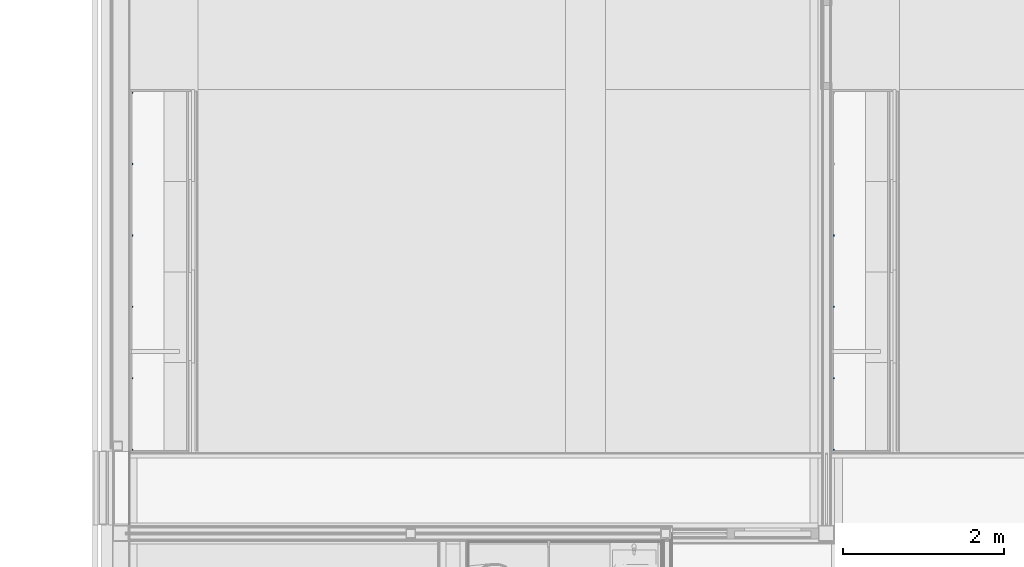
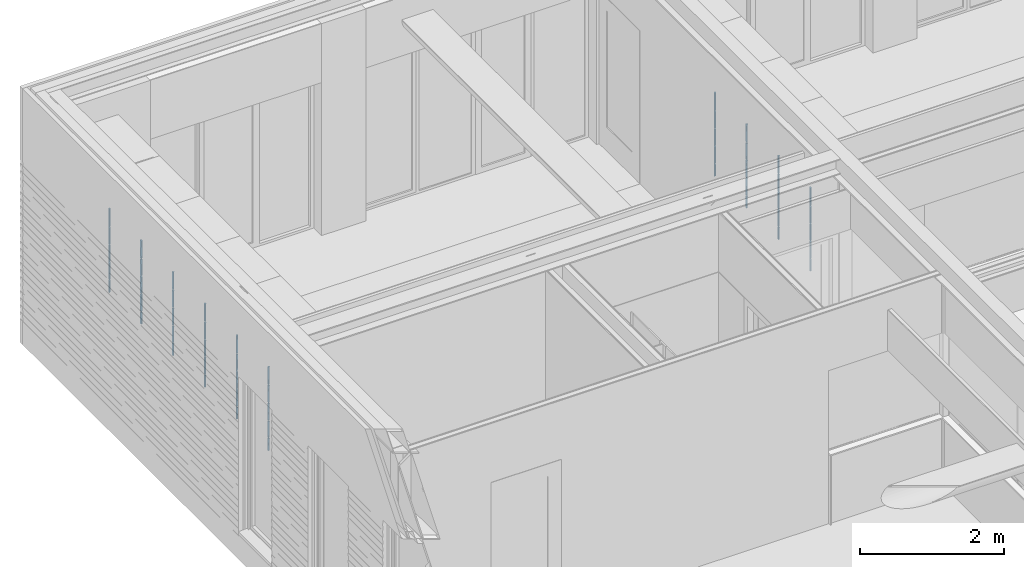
# One storey, part 4 of 165: 10 columns.
"""IFC2X3 building model written with IfcOpenShell, lengths in millimetres."""

from ifc_helpers import new_model, entity, si_unit, converted_unit, derived_unit, money_unit, direction, frame, origin_with_axes, place, context, subcontext, project, spatial, faceted_brep, material, type_object, element, save


model = new_model("IFC2X3")

# Units and contexts
model_context = context("Model", 3, precision=0.01, world=origin_with_axes(), true_north=direction((0.0, 1.0)))
body_context = subcontext(model_context, "Body", "Model", "MODEL_VIEW")
ifc_project = project(units=[si_unit("LENGTHUNIT", "METRE", prefix="MILLI"), si_unit("AREAUNIT", "SQUARE_METRE"), si_unit("VOLUMEUNIT", "CUBIC_METRE"), converted_unit("PLANEANGLEUNIT", "DEGREE", entity("IfcPlaneAngleMeasure", 0.0174532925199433), si_unit("PLANEANGLEUNIT", "RADIAN"), dimensions=[0, 0, 0, 0, 0, 0, 0]), money_unit("EUR"), converted_unit("TIMEUNIT", "Year", entity("IfcTimeMeasure", 31556926.0), si_unit("TIMEUNIT", "SECOND"), dimensions=[0, 0, 1, 0, 0, 0, 0]), si_unit("MASSUNIT", "GRAM", prefix="KILO"), si_unit("THERMODYNAMICTEMPERATUREUNIT", "DEGREE_CELSIUS"), si_unit("LUMINOUSINTENSITYUNIT", "LUMEN"), si_unit("ENERGYUNIT", "JOULE", prefix="MEGA"), derived_unit("THERMALCONDUCTANCEUNIT", [(si_unit("POWERUNIT", "WATT"), 1), (si_unit("LENGTHUNIT", "METRE"), -1), (si_unit("THERMODYNAMICTEMPERATUREUNIT", "KELVIN"), -1)]), derived_unit("SPECIFICHEATCAPACITYUNIT", [(si_unit("ENERGYUNIT", "JOULE"), 1), (si_unit("MASSUNIT", "GRAM", prefix="KILO"), -1), (si_unit("THERMODYNAMICTEMPERATUREUNIT", "KELVIN"), -1)]), derived_unit("MASSDENSITYUNIT", [(si_unit("MASSUNIT", "GRAM", prefix="KILO"), 1), (si_unit("VOLUMEUNIT", "CUBIC_METRE"), -1)])], contexts=[model_context])

# Site, building, storey
site_placement = place(None, origin_with_axes())
site = spatial("IfcSite", under=ifc_project, at=site_placement, Name="Site", CompositionType="ELEMENT")
building_placement = place(site_placement, origin_with_axes())
building = spatial("IfcBuilding", under=site, at=building_placement, Name="Naam gebouw", CompositionType="ELEMENT")
storey_placement = place(building_placement, origin_with_axes())
storey = spatial("IfcBuildingStorey", under=building, at=storey_placement, Name="Begane grond", CompositionType="ELEMENT", Elevation=0.0)

# Columns
ifc_material = material(Name="ALG - ALGEMEEN")
column_type = type_object("IfcColumnType", Name="ALG - ALGEMEEN 20 x 20", PredefinedType="COLUMN")
column_1_placement = place(storey_placement, frame((8942.500000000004, 23362.99984707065, 1182.0), z_axis=(0.0, 0.0, 1.0), x_axis=(1.0, 0.0, 0.0)))
element("IfcColumn", 1, at=column_1_placement, inside=storey, type_object=column_type, material=ifc_material, Name="28_Kolom-x", ObjectType="COLUMN", context=body_context, shape_type="Brep", body=[
    faceted_brep([(-8.000000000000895, 9.99999999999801, 0.0), (-8.000000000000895, 9.99999999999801, 197.9999999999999), (9.999999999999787, 9.99999999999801, 197.9999999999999), (9.999999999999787, 9.99999999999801, 0.0), (-8.000000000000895, -10.00000000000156, 0.0), (-8.000000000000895, -10.00000000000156, 197.9999999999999), (9.999999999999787, -10.00000000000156, 197.9999999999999), (9.999999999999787, -10.00000000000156, 0.0)], [[[0, 1, 2, 3]], [[4, 5, 1, 0]], [[5, 6, 2, 1]], [[3, 2, 6, 7]], [[3, 7, 4, 0]], [[7, 6, 5, 4]]]),
    faceted_brep([(9.999999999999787, -10.00000000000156, 1418.0), (9.999999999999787, -10.00000000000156, 1118.0), (9.999999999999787, 9.99999999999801, 1118.0), (9.999999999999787, 9.99999999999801, 1418.0), (-8.000000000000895, -10.00000000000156, 1418.0), (-8.000000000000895, -10.00000000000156, 1118.0), (-8.000000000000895, 9.99999999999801, 1118.0), (-8.000000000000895, 9.99999999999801, 1418.0)], [[[0, 1, 2, 3]], [[4, 5, 1, 0]], [[5, 6, 2, 1]], [[3, 2, 6, 7]], [[0, 3, 7, 4]], [[7, 6, 5, 4]]]),
    faceted_brep([(9.999999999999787, -10.00000000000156, 1098.0), (9.999999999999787, -10.00000000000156, 818.0000000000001), (9.999999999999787, 9.99999999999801, 818.0000000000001), (9.999999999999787, 9.99999999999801, 1098.0), (-8.000000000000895, -10.00000000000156, 1098.0), (-8.000000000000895, -10.00000000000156, 818.0000000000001), (-8.000000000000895, 9.99999999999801, 818.0000000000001), (-8.000000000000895, 9.99999999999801, 1098.0)], [[[0, 1, 2, 3]], [[4, 5, 1, 0]], [[5, 6, 2, 1]], [[3, 2, 6, 7]], [[4, 0, 3, 7]], [[7, 6, 5, 4]]]),
    faceted_brep([(9.999999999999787, -10.00000000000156, 798.0), (9.999999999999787, -10.00000000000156, 518.0), (9.999999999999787, 9.99999999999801, 518.0), (9.999999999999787, 9.99999999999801, 798.0), (-8.000000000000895, -10.00000000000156, 798.0), (-8.000000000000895, -10.00000000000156, 518.0), (-8.000000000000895, 9.99999999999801, 518.0), (-8.000000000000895, 9.99999999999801, 798.0)], [[[0, 1, 2, 3]], [[4, 5, 1, 0]], [[5, 6, 2, 1]], [[3, 2, 6, 7]], [[4, 0, 3, 7]], [[7, 6, 5, 4]]]),
    faceted_brep([(9.999999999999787, -10.00000000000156, 498.0), (9.999999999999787, -10.00000000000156, 218.0), (9.999999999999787, 9.99999999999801, 218.0), (9.999999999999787, 9.99999999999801, 498.0), (-8.000000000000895, -10.00000000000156, 498.0), (-8.000000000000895, -10.00000000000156, 218.0), (-8.000000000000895, 9.99999999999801, 218.0), (-8.000000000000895, 9.99999999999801, 498.0)], [[[0, 1, 2, 3]], [[4, 5, 1, 0]], [[5, 6, 2, 1]], [[3, 2, 6, 7]], [[4, 0, 3, 7]], [[7, 6, 5, 4]]]),
])
column_2_placement = place(storey_placement, frame((8942.500000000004, 26020.99984707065, 1182.0), z_axis=(0.0, 0.0, 1.0), x_axis=(1.0, 0.0, 0.0)))
element("IfcColumn", 2, at=column_2_placement, inside=storey, type_object=column_type, material=ifc_material, Name="28_Kolom-x", ObjectType="COLUMN", context=body_context, shape_type="Brep", body=[
    faceted_brep([(-8.000000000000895, 9.99999999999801, 0.0), (-8.000000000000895, 9.99999999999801, 197.9999999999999), (9.999999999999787, 9.99999999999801, 197.9999999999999), (9.999999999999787, 9.99999999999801, 0.0), (-8.000000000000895, -10.00000000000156, 0.0), (-8.000000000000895, -10.00000000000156, 197.9999999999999), (9.999999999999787, -10.00000000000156, 197.9999999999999), (9.999999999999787, -10.00000000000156, 0.0)], [[[0, 1, 2, 3]], [[4, 5, 1, 0]], [[5, 6, 2, 1]], [[3, 2, 6, 7]], [[3, 7, 4, 0]], [[7, 6, 5, 4]]]),
    faceted_brep([(9.999999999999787, -10.00000000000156, 1418.0), (9.999999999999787, -10.00000000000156, 1118.0), (9.999999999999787, 9.99999999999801, 1118.0), (9.999999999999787, 9.99999999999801, 1418.0), (-8.000000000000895, -10.00000000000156, 1418.0), (-8.000000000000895, -10.00000000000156, 1118.0), (-8.000000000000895, 9.99999999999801, 1118.0), (-8.000000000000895, 9.99999999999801, 1418.0)], [[[0, 1, 2, 3]], [[4, 5, 1, 0]], [[5, 6, 2, 1]], [[3, 2, 6, 7]], [[0, 3, 7, 4]], [[7, 6, 5, 4]]]),
    faceted_brep([(9.999999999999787, -10.00000000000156, 1098.0), (9.999999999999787, -10.00000000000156, 818.0000000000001), (9.999999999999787, 9.99999999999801, 818.0000000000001), (9.999999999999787, 9.99999999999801, 1098.0), (-8.000000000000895, -10.00000000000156, 1098.0), (-8.000000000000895, -10.00000000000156, 818.0000000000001), (-8.000000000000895, 9.99999999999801, 818.0000000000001), (-8.000000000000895, 9.99999999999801, 1098.0)], [[[0, 1, 2, 3]], [[4, 5, 1, 0]], [[5, 6, 2, 1]], [[3, 2, 6, 7]], [[4, 0, 3, 7]], [[7, 6, 5, 4]]]),
    faceted_brep([(9.999999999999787, -10.00000000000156, 798.0), (9.999999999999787, -10.00000000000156, 518.0), (9.999999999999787, 9.99999999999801, 518.0), (9.999999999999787, 9.99999999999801, 798.0), (-8.000000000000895, -10.00000000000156, 798.0), (-8.000000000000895, -10.00000000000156, 518.0), (-8.000000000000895, 9.99999999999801, 518.0), (-8.000000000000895, 9.99999999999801, 798.0)], [[[0, 1, 2, 3]], [[4, 5, 1, 0]], [[5, 6, 2, 1]], [[3, 2, 6, 7]], [[4, 0, 3, 7]], [[7, 6, 5, 4]]]),
    faceted_brep([(9.999999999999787, -10.00000000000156, 498.0), (9.999999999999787, -10.00000000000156, 218.0), (9.999999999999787, 9.99999999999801, 218.0), (9.999999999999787, 9.99999999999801, 498.0), (-8.000000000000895, -10.00000000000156, 498.0), (-8.000000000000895, -10.00000000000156, 218.0), (-8.000000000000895, 9.99999999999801, 218.0), (-8.000000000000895, 9.99999999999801, 498.0)], [[[0, 1, 2, 3]], [[4, 5, 1, 0]], [[5, 6, 2, 1]], [[3, 2, 6, 7]], [[4, 0, 3, 7]], [[7, 6, 5, 4]]]),
])
column_3_placement = place(storey_placement, frame((8942.500000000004, 25134.99984707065, 1182.0), z_axis=(0.0, 0.0, 1.0), x_axis=(1.0, 0.0, 0.0)))
element("IfcColumn", 3, at=column_3_placement, inside=storey, type_object=column_type, material=ifc_material, Name="28_Kolom-x", ObjectType="COLUMN", context=body_context, shape_type="Brep", body=[
    faceted_brep([(-8.000000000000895, 9.99999999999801, 0.0), (-8.000000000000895, 9.99999999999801, 197.9999999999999), (9.999999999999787, 9.99999999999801, 197.9999999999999), (9.999999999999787, 9.99999999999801, 0.0), (-8.000000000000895, -10.00000000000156, 0.0), (-8.000000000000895, -10.00000000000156, 197.9999999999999), (9.999999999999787, -10.00000000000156, 197.9999999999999), (9.999999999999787, -10.00000000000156, 0.0)], [[[0, 1, 2, 3]], [[4, 5, 1, 0]], [[5, 6, 2, 1]], [[3, 2, 6, 7]], [[3, 7, 4, 0]], [[7, 6, 5, 4]]]),
    faceted_brep([(9.999999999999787, -10.00000000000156, 1418.0), (9.999999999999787, -10.00000000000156, 1118.0), (9.999999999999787, 9.99999999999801, 1118.0), (9.999999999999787, 9.99999999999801, 1418.0), (-8.000000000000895, -10.00000000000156, 1418.0), (-8.000000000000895, -10.00000000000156, 1118.0), (-8.000000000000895, 9.99999999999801, 1118.0), (-8.000000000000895, 9.99999999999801, 1418.0)], [[[0, 1, 2, 3]], [[4, 5, 1, 0]], [[5, 6, 2, 1]], [[3, 2, 6, 7]], [[0, 3, 7, 4]], [[7, 6, 5, 4]]]),
    faceted_brep([(9.999999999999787, -10.00000000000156, 1098.0), (9.999999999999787, -10.00000000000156, 818.0000000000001), (9.999999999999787, 9.99999999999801, 818.0000000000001), (9.999999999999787, 9.99999999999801, 1098.0), (-8.000000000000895, -10.00000000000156, 1098.0), (-8.000000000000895, -10.00000000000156, 818.0000000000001), (-8.000000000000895, 9.99999999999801, 818.0000000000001), (-8.000000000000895, 9.99999999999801, 1098.0)], [[[0, 1, 2, 3]], [[4, 5, 1, 0]], [[5, 6, 2, 1]], [[3, 2, 6, 7]], [[4, 0, 3, 7]], [[7, 6, 5, 4]]]),
    faceted_brep([(9.999999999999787, -10.00000000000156, 798.0), (9.999999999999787, -10.00000000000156, 518.0), (9.999999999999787, 9.99999999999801, 518.0), (9.999999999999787, 9.99999999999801, 798.0), (-8.000000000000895, -10.00000000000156, 798.0), (-8.000000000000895, -10.00000000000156, 518.0), (-8.000000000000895, 9.99999999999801, 518.0), (-8.000000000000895, 9.99999999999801, 798.0)], [[[0, 1, 2, 3]], [[4, 5, 1, 0]], [[5, 6, 2, 1]], [[3, 2, 6, 7]], [[4, 0, 3, 7]], [[7, 6, 5, 4]]]),
    faceted_brep([(9.999999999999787, -10.00000000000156, 498.0), (9.999999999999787, -10.00000000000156, 218.0), (9.999999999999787, 9.99999999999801, 218.0), (9.999999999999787, 9.99999999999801, 498.0), (-8.000000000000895, -10.00000000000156, 498.0), (-8.000000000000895, -10.00000000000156, 218.0), (-8.000000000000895, 9.99999999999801, 218.0), (-8.000000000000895, 9.99999999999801, 498.0)], [[[0, 1, 2, 3]], [[4, 5, 1, 0]], [[5, 6, 2, 1]], [[3, 2, 6, 7]], [[4, 0, 3, 7]], [[7, 6, 5, 4]]]),
])
column_4_placement = place(storey_placement, frame((8942.500000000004, 24248.99984707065, 1182.0), z_axis=(0.0, 0.0, 1.0), x_axis=(1.0, 0.0, 0.0)))
element("IfcColumn", 4, at=column_4_placement, inside=storey, type_object=column_type, material=ifc_material, Name="28_Kolom-x", ObjectType="COLUMN", context=body_context, shape_type="Brep", body=[
    faceted_brep([(-8.000000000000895, 9.99999999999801, 0.0), (-8.000000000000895, 9.99999999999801, 197.9999999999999), (9.999999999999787, 9.99999999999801, 197.9999999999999), (9.999999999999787, 9.99999999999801, 0.0), (-8.000000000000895, -10.00000000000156, 0.0), (-8.000000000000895, -10.00000000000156, 197.9999999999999), (9.999999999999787, -10.00000000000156, 197.9999999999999), (9.999999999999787, -10.00000000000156, 0.0)], [[[0, 1, 2, 3]], [[4, 5, 1, 0]], [[5, 6, 2, 1]], [[3, 2, 6, 7]], [[3, 7, 4, 0]], [[7, 6, 5, 4]]]),
    faceted_brep([(9.999999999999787, -10.00000000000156, 1418.0), (9.999999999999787, -10.00000000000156, 1118.0), (9.999999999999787, 9.99999999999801, 1118.0), (9.999999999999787, 9.99999999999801, 1418.0), (-8.000000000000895, -10.00000000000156, 1418.0), (-8.000000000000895, -10.00000000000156, 1118.0), (-8.000000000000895, 9.99999999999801, 1118.0), (-8.000000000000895, 9.99999999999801, 1418.0)], [[[0, 1, 2, 3]], [[4, 5, 1, 0]], [[5, 6, 2, 1]], [[3, 2, 6, 7]], [[0, 3, 7, 4]], [[7, 6, 5, 4]]]),
    faceted_brep([(9.999999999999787, -10.00000000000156, 1098.0), (9.999999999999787, -10.00000000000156, 818.0000000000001), (9.999999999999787, 9.99999999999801, 818.0000000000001), (9.999999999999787, 9.99999999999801, 1098.0), (-8.000000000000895, -10.00000000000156, 1098.0), (-8.000000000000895, -10.00000000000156, 818.0000000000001), (-8.000000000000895, 9.99999999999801, 818.0000000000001), (-8.000000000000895, 9.99999999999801, 1098.0)], [[[0, 1, 2, 3]], [[4, 5, 1, 0]], [[5, 6, 2, 1]], [[3, 2, 6, 7]], [[4, 0, 3, 7]], [[7, 6, 5, 4]]]),
    faceted_brep([(9.999999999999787, -10.00000000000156, 798.0), (9.999999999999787, -10.00000000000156, 518.0), (9.999999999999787, 9.99999999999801, 518.0), (9.999999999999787, 9.99999999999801, 798.0), (-8.000000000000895, -10.00000000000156, 798.0), (-8.000000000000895, -10.00000000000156, 518.0), (-8.000000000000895, 9.99999999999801, 518.0), (-8.000000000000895, 9.99999999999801, 798.0)], [[[0, 1, 2, 3]], [[4, 5, 1, 0]], [[5, 6, 2, 1]], [[3, 2, 6, 7]], [[4, 0, 3, 7]], [[7, 6, 5, 4]]]),
    faceted_brep([(9.999999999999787, -10.00000000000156, 498.0), (9.999999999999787, -10.00000000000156, 218.0), (9.999999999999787, 9.99999999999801, 218.0), (9.999999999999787, 9.99999999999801, 498.0), (-8.000000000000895, -10.00000000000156, 498.0), (-8.000000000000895, -10.00000000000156, 218.0), (-8.000000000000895, 9.99999999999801, 218.0), (-8.000000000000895, 9.99999999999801, 498.0)], [[[0, 1, 2, 3]], [[4, 5, 1, 0]], [[5, 6, 2, 1]], [[3, 2, 6, 7]], [[4, 0, 3, 7]], [[7, 6, 5, 4]]]),
])
column_5_placement = place(storey_placement, frame((244.0000000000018, 23362.99984707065, 1182.0), z_axis=(0.0, 0.0, 1.0), x_axis=(1.0, 0.0, 0.0)))
element("IfcColumn", 5, at=column_5_placement, inside=storey, type_object=column_type, material=ifc_material, Name="28_Kolom-x", ObjectType="COLUMN", context=body_context, shape_type="Brep", body=[
    faceted_brep([(-8.000000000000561, 9.99999999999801, 0.0), (-8.000000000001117, 9.99999999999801, 197.9999999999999), (10.00000000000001, 9.99999999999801, 197.9999999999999), (10.00000000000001, 9.99999999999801, 0.0), (-8.000000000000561, -10.00000000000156, 0.0), (-8.000000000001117, -10.00000000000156, 197.9999999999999), (10.00000000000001, -10.00000000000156, 197.9999999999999), (10.00000000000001, -10.00000000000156, 0.0)], [[[0, 1, 2, 3]], [[4, 5, 1, 0]], [[5, 6, 2, 1]], [[3, 2, 6, 7]], [[3, 7, 4, 0]], [[7, 6, 5, 4]]]),
    faceted_brep([(10.00000000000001, -10.00000000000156, 1418.0), (10.00000000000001, -10.00000000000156, 1118.0), (10.00000000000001, 9.99999999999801, 1118.0), (10.00000000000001, 9.99999999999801, 1418.0), (-8.000000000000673, -10.00000000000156, 1418.0), (-8.000000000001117, -10.00000000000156, 1118.0), (-8.000000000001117, 9.99999999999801, 1118.0), (-8.000000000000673, 9.99999999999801, 1418.0)], [[[0, 1, 2, 3]], [[4, 5, 1, 0]], [[5, 6, 2, 1]], [[3, 2, 6, 7]], [[0, 3, 7, 4]], [[7, 6, 5, 4]]]),
    faceted_brep([(10.00000000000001, -10.00000000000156, 1098.0), (10.00000000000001, -10.00000000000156, 818.0000000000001), (10.00000000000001, 9.99999999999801, 818.0000000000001), (10.00000000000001, 9.99999999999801, 1098.0), (-8.000000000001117, -10.00000000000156, 1098.0), (-8.000000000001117, -10.00000000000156, 818.0000000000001), (-8.000000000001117, 9.99999999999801, 818.0000000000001), (-8.000000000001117, 9.99999999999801, 1098.0)], [[[0, 1, 2, 3]], [[4, 5, 1, 0]], [[5, 6, 2, 1]], [[3, 2, 6, 7]], [[4, 0, 3, 7]], [[7, 6, 5, 4]]]),
    faceted_brep([(10.00000000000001, -10.00000000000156, 798.0), (10.00000000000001, -10.00000000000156, 518.0), (10.00000000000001, 9.99999999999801, 518.0), (10.00000000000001, 9.99999999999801, 798.0), (-8.000000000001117, -10.00000000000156, 798.0), (-8.000000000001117, -10.00000000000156, 518.0), (-8.000000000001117, 9.99999999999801, 518.0), (-8.000000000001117, 9.99999999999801, 798.0)], [[[0, 1, 2, 3]], [[4, 5, 1, 0]], [[5, 6, 2, 1]], [[3, 2, 6, 7]], [[4, 0, 3, 7]], [[7, 6, 5, 4]]]),
    faceted_brep([(10.00000000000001, -10.00000000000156, 498.0), (10.00000000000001, -10.00000000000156, 218.0), (10.00000000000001, 9.99999999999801, 218.0), (10.00000000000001, 9.99999999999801, 498.0), (-8.000000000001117, -10.00000000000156, 498.0), (-8.000000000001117, -10.00000000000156, 218.0), (-8.000000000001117, 9.99999999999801, 218.0), (-8.000000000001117, 9.99999999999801, 498.0)], [[[0, 1, 2, 3]], [[4, 5, 1, 0]], [[5, 6, 2, 1]], [[3, 2, 6, 7]], [[4, 0, 3, 7]], [[7, 6, 5, 4]]]),
])
column_6_placement = place(storey_placement, frame((244.0000000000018, 27792.99984707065, 1182.0), z_axis=(0.0, 0.0, 1.0), x_axis=(1.0, 0.0, 0.0)))
element("IfcColumn", 6, at=column_6_placement, inside=storey, type_object=column_type, material=ifc_material, Name="28_Kolom-x", ObjectType="COLUMN", context=body_context, shape_type="Brep", body=[
    faceted_brep([(-8.000000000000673, 9.99999999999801, 0.0), (-8.000000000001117, 9.99999999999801, 197.9999999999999), (10.00000000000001, 9.99999999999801, 197.9999999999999), (10.00000000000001, 9.99999999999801, 0.0), (-8.000000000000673, -10.00000000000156, 0.0), (-8.000000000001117, -10.00000000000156, 197.9999999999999), (10.00000000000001, -10.00000000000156, 197.9999999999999), (10.00000000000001, -10.00000000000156, 0.0)], [[[0, 1, 2, 3]], [[4, 5, 1, 0]], [[5, 6, 2, 1]], [[3, 2, 6, 7]], [[3, 7, 4, 0]], [[7, 6, 5, 4]]]),
    faceted_brep([(10.00000000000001, -10.00000000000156, 1418.0), (10.00000000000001, -10.00000000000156, 1118.0), (10.00000000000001, 9.99999999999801, 1118.0), (10.00000000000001, 9.99999999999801, 1418.0), (-8.000000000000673, -10.00000000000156, 1418.0), (-8.000000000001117, -10.00000000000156, 1118.0), (-8.000000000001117, 9.99999999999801, 1118.0), (-8.000000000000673, 9.99999999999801, 1418.0)], [[[0, 1, 2, 3]], [[4, 5, 1, 0]], [[5, 6, 2, 1]], [[3, 2, 6, 7]], [[0, 3, 7, 4]], [[7, 6, 5, 4]]]),
    faceted_brep([(10.00000000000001, -10.00000000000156, 1098.0), (10.00000000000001, -10.00000000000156, 818.0000000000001), (10.00000000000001, 9.99999999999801, 818.0000000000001), (10.00000000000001, 9.99999999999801, 1098.0), (-8.000000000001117, -10.00000000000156, 1098.0), (-8.000000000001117, -10.00000000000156, 818.0000000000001), (-8.000000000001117, 9.99999999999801, 818.0000000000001), (-8.000000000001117, 9.99999999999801, 1098.0)], [[[0, 1, 2, 3]], [[4, 5, 1, 0]], [[5, 6, 2, 1]], [[3, 2, 6, 7]], [[4, 0, 3, 7]], [[7, 6, 5, 4]]]),
    faceted_brep([(10.00000000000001, -10.00000000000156, 798.0), (10.00000000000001, -10.00000000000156, 518.0), (10.00000000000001, 9.99999999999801, 518.0), (10.00000000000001, 9.99999999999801, 798.0), (-8.000000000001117, -10.00000000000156, 798.0), (-8.000000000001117, -10.00000000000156, 518.0), (-8.000000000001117, 9.99999999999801, 518.0), (-8.000000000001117, 9.99999999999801, 798.0)], [[[0, 1, 2, 3]], [[4, 5, 1, 0]], [[5, 6, 2, 1]], [[3, 2, 6, 7]], [[4, 0, 3, 7]], [[7, 6, 5, 4]]]),
    faceted_brep([(10.00000000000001, -10.00000000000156, 498.0), (10.00000000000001, -10.00000000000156, 218.0), (10.00000000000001, 9.99999999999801, 218.0), (10.00000000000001, 9.99999999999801, 498.0), (-8.000000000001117, -10.00000000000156, 498.0), (-8.000000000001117, -10.00000000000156, 218.0), (-8.000000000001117, 9.99999999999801, 218.0), (-8.000000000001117, 9.99999999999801, 498.0)], [[[0, 1, 2, 3]], [[4, 5, 1, 0]], [[5, 6, 2, 1]], [[3, 2, 6, 7]], [[4, 0, 3, 7]], [[7, 6, 5, 4]]]),
])
column_7_placement = place(storey_placement, frame((244.0000000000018, 26906.99984707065, 1182.0), z_axis=(0.0, 0.0, 1.0), x_axis=(1.0, 0.0, 0.0)))
element("IfcColumn", 7, at=column_7_placement, inside=storey, type_object=column_type, material=ifc_material, Name="28_Kolom-x", ObjectType="COLUMN", context=body_context, shape_type="Brep", body=[
    faceted_brep([(-8.000000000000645, 9.99999999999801, 0.0), (-8.000000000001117, 9.99999999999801, 197.9999999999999), (10.00000000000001, 9.99999999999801, 197.9999999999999), (10.00000000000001, 9.99999999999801, 0.0), (-8.000000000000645, -10.00000000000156, 0.0), (-8.000000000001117, -10.00000000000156, 197.9999999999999), (10.00000000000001, -10.00000000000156, 197.9999999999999), (10.00000000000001, -10.00000000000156, 0.0)], [[[0, 1, 2, 3]], [[4, 5, 1, 0]], [[5, 6, 2, 1]], [[3, 2, 6, 7]], [[3, 7, 4, 0]], [[7, 6, 5, 4]]]),
    faceted_brep([(10.00000000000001, -10.00000000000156, 1418.0), (10.00000000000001, -10.00000000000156, 1118.0), (10.00000000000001, 9.99999999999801, 1118.0), (10.00000000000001, 9.99999999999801, 1418.0), (-8.000000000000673, -10.00000000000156, 1418.0), (-8.000000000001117, -10.00000000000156, 1118.0), (-8.000000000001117, 9.99999999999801, 1118.0), (-8.000000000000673, 9.99999999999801, 1418.0)], [[[0, 1, 2, 3]], [[4, 5, 1, 0]], [[5, 6, 2, 1]], [[3, 2, 6, 7]], [[0, 3, 7, 4]], [[7, 6, 5, 4]]]),
    faceted_brep([(10.00000000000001, -10.00000000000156, 1098.0), (10.00000000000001, -10.00000000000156, 818.0000000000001), (10.00000000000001, 9.99999999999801, 818.0000000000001), (10.00000000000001, 9.99999999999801, 1098.0), (-8.000000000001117, -10.00000000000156, 1098.0), (-8.000000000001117, -10.00000000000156, 818.0000000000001), (-8.000000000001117, 9.99999999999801, 818.0000000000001), (-8.000000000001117, 9.99999999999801, 1098.0)], [[[0, 1, 2, 3]], [[4, 5, 1, 0]], [[5, 6, 2, 1]], [[3, 2, 6, 7]], [[4, 0, 3, 7]], [[7, 6, 5, 4]]]),
    faceted_brep([(10.00000000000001, -10.00000000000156, 798.0), (10.00000000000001, -10.00000000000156, 518.0), (10.00000000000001, 9.99999999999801, 518.0), (10.00000000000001, 9.99999999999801, 798.0), (-8.000000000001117, -10.00000000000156, 798.0), (-8.000000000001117, -10.00000000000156, 518.0), (-8.000000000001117, 9.99999999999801, 518.0), (-8.000000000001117, 9.99999999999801, 798.0)], [[[0, 1, 2, 3]], [[4, 5, 1, 0]], [[5, 6, 2, 1]], [[3, 2, 6, 7]], [[4, 0, 3, 7]], [[7, 6, 5, 4]]]),
    faceted_brep([(10.00000000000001, -10.00000000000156, 498.0), (10.00000000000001, -10.00000000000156, 218.0), (10.00000000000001, 9.99999999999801, 218.0), (10.00000000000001, 9.99999999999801, 498.0), (-8.000000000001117, -10.00000000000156, 498.0), (-8.000000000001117, -10.00000000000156, 218.0), (-8.000000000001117, 9.99999999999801, 218.0), (-8.000000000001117, 9.99999999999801, 498.0)], [[[0, 1, 2, 3]], [[4, 5, 1, 0]], [[5, 6, 2, 1]], [[3, 2, 6, 7]], [[4, 0, 3, 7]], [[7, 6, 5, 4]]]),
])
column_8_placement = place(storey_placement, frame((244.0000000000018, 26020.99984707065, 1182.0), z_axis=(0.0, 0.0, 1.0), x_axis=(1.0, 0.0, 0.0)))
element("IfcColumn", 8, at=column_8_placement, inside=storey, type_object=column_type, material=ifc_material, Name="28_Kolom-x", ObjectType="COLUMN", context=body_context, shape_type="Brep", body=[
    faceted_brep([(-8.000000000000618, 9.99999999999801, 0.0), (-8.000000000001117, 9.99999999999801, 197.9999999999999), (10.00000000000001, 9.99999999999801, 197.9999999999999), (10.00000000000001, 9.99999999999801, 0.0), (-8.000000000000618, -10.00000000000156, 0.0), (-8.000000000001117, -10.00000000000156, 197.9999999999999), (10.00000000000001, -10.00000000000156, 197.9999999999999), (10.00000000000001, -10.00000000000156, 0.0)], [[[0, 1, 2, 3]], [[4, 5, 1, 0]], [[5, 6, 2, 1]], [[3, 2, 6, 7]], [[3, 7, 4, 0]], [[7, 6, 5, 4]]]),
    faceted_brep([(10.00000000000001, -10.00000000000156, 1418.0), (10.00000000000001, -10.00000000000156, 1118.0), (10.00000000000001, 9.99999999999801, 1118.0), (10.00000000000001, 9.99999999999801, 1418.0), (-8.000000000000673, -10.00000000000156, 1418.0), (-8.000000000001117, -10.00000000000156, 1118.0), (-8.000000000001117, 9.99999999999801, 1118.0), (-8.000000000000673, 9.99999999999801, 1418.0)], [[[0, 1, 2, 3]], [[4, 5, 1, 0]], [[5, 6, 2, 1]], [[3, 2, 6, 7]], [[0, 3, 7, 4]], [[7, 6, 5, 4]]]),
    faceted_brep([(10.00000000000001, -10.00000000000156, 1098.0), (10.00000000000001, -10.00000000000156, 818.0000000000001), (10.00000000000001, 9.99999999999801, 818.0000000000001), (10.00000000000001, 9.99999999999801, 1098.0), (-8.000000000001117, -10.00000000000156, 1098.0), (-8.000000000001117, -10.00000000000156, 818.0000000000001), (-8.000000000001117, 9.99999999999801, 818.0000000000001), (-8.000000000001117, 9.99999999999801, 1098.0)], [[[0, 1, 2, 3]], [[4, 5, 1, 0]], [[5, 6, 2, 1]], [[3, 2, 6, 7]], [[4, 0, 3, 7]], [[7, 6, 5, 4]]]),
    faceted_brep([(10.00000000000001, -10.00000000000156, 798.0), (10.00000000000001, -10.00000000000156, 518.0), (10.00000000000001, 9.99999999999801, 518.0), (10.00000000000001, 9.99999999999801, 798.0), (-8.000000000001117, -10.00000000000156, 798.0), (-8.000000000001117, -10.00000000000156, 518.0), (-8.000000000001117, 9.99999999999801, 518.0), (-8.000000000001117, 9.99999999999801, 798.0)], [[[0, 1, 2, 3]], [[4, 5, 1, 0]], [[5, 6, 2, 1]], [[3, 2, 6, 7]], [[4, 0, 3, 7]], [[7, 6, 5, 4]]]),
    faceted_brep([(10.00000000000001, -10.00000000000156, 498.0), (10.00000000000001, -10.00000000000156, 218.0), (10.00000000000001, 9.99999999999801, 218.0), (10.00000000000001, 9.99999999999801, 498.0), (-8.000000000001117, -10.00000000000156, 498.0), (-8.000000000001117, -10.00000000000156, 218.0), (-8.000000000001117, 9.99999999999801, 218.0), (-8.000000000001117, 9.99999999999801, 498.0)], [[[0, 1, 2, 3]], [[4, 5, 1, 0]], [[5, 6, 2, 1]], [[3, 2, 6, 7]], [[4, 0, 3, 7]], [[7, 6, 5, 4]]]),
])
column_9_placement = place(storey_placement, frame((244.0000000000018, 25134.99984707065, 1182.0), z_axis=(0.0, 0.0, 1.0), x_axis=(1.0, 0.0, 0.0)))
element("IfcColumn", 9, at=column_9_placement, inside=storey, type_object=column_type, material=ifc_material, Name="28_Kolom-x", ObjectType="COLUMN", context=body_context, shape_type="Brep", body=[
    faceted_brep([(-8.000000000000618, 9.99999999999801, 0.0), (-8.000000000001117, 9.99999999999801, 197.9999999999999), (10.00000000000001, 9.99999999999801, 197.9999999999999), (10.00000000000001, 9.99999999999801, 0.0), (-8.000000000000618, -10.00000000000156, 0.0), (-8.000000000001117, -10.00000000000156, 197.9999999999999), (10.00000000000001, -10.00000000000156, 197.9999999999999), (10.00000000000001, -10.00000000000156, 0.0)], [[[0, 1, 2, 3]], [[4, 5, 1, 0]], [[5, 6, 2, 1]], [[3, 2, 6, 7]], [[3, 7, 4, 0]], [[7, 6, 5, 4]]]),
    faceted_brep([(10.00000000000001, -10.00000000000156, 1418.0), (10.00000000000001, -10.00000000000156, 1118.0), (10.00000000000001, 9.99999999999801, 1118.0), (10.00000000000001, 9.99999999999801, 1418.0), (-8.000000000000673, -10.00000000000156, 1418.0), (-8.000000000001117, -10.00000000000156, 1118.0), (-8.000000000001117, 9.99999999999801, 1118.0), (-8.000000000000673, 9.99999999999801, 1418.0)], [[[0, 1, 2, 3]], [[4, 5, 1, 0]], [[5, 6, 2, 1]], [[3, 2, 6, 7]], [[0, 3, 7, 4]], [[7, 6, 5, 4]]]),
    faceted_brep([(10.00000000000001, -10.00000000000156, 1098.0), (10.00000000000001, -10.00000000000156, 818.0000000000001), (10.00000000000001, 9.99999999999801, 818.0000000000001), (10.00000000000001, 9.99999999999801, 1098.0), (-8.000000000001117, -10.00000000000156, 1098.0), (-8.000000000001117, -10.00000000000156, 818.0000000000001), (-8.000000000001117, 9.99999999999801, 818.0000000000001), (-8.000000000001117, 9.99999999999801, 1098.0)], [[[0, 1, 2, 3]], [[4, 5, 1, 0]], [[5, 6, 2, 1]], [[3, 2, 6, 7]], [[4, 0, 3, 7]], [[7, 6, 5, 4]]]),
    faceted_brep([(10.00000000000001, -10.00000000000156, 798.0), (10.00000000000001, -10.00000000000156, 518.0), (10.00000000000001, 9.99999999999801, 518.0), (10.00000000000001, 9.99999999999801, 798.0), (-8.000000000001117, -10.00000000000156, 798.0), (-8.000000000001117, -10.00000000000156, 518.0), (-8.000000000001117, 9.99999999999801, 518.0), (-8.000000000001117, 9.99999999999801, 798.0)], [[[0, 1, 2, 3]], [[4, 5, 1, 0]], [[5, 6, 2, 1]], [[3, 2, 6, 7]], [[4, 0, 3, 7]], [[7, 6, 5, 4]]]),
    faceted_brep([(10.00000000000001, -10.00000000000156, 498.0), (10.00000000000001, -10.00000000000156, 218.0), (10.00000000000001, 9.99999999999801, 218.0), (10.00000000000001, 9.99999999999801, 498.0), (-8.000000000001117, -10.00000000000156, 498.0), (-8.000000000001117, -10.00000000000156, 218.0), (-8.000000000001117, 9.99999999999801, 218.0), (-8.000000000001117, 9.99999999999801, 498.0)], [[[0, 1, 2, 3]], [[4, 5, 1, 0]], [[5, 6, 2, 1]], [[3, 2, 6, 7]], [[4, 0, 3, 7]], [[7, 6, 5, 4]]]),
])
column_10_placement = place(storey_placement, frame((244.0000000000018, 24248.99984707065, 1182.0), z_axis=(0.0, 0.0, 1.0), x_axis=(1.0, 0.0, 0.0)))
element("IfcColumn", 10, at=column_10_placement, inside=storey, type_object=column_type, material=ifc_material, Name="28_Kolom-x", ObjectType="COLUMN", context=body_context, shape_type="Brep", body=[
    faceted_brep([(-8.00000000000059, 9.99999999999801, 0.0), (-8.000000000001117, 9.99999999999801, 197.9999999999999), (10.00000000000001, 9.99999999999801, 197.9999999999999), (10.00000000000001, 9.99999999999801, 0.0), (-8.00000000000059, -10.00000000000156, 0.0), (-8.000000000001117, -10.00000000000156, 197.9999999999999), (10.00000000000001, -10.00000000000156, 197.9999999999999), (10.00000000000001, -10.00000000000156, 0.0)], [[[0, 1, 2, 3]], [[4, 5, 1, 0]], [[5, 6, 2, 1]], [[3, 2, 6, 7]], [[3, 7, 4, 0]], [[7, 6, 5, 4]]]),
    faceted_brep([(10.00000000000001, -10.00000000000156, 1418.0), (10.00000000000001, -10.00000000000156, 1118.0), (10.00000000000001, 9.99999999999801, 1118.0), (10.00000000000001, 9.99999999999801, 1418.0), (-8.000000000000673, -10.00000000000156, 1418.0), (-8.000000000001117, -10.00000000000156, 1118.0), (-8.000000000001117, 9.99999999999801, 1118.0), (-8.000000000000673, 9.99999999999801, 1418.0)], [[[0, 1, 2, 3]], [[4, 5, 1, 0]], [[5, 6, 2, 1]], [[3, 2, 6, 7]], [[0, 3, 7, 4]], [[7, 6, 5, 4]]]),
    faceted_brep([(10.00000000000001, -10.00000000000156, 1098.0), (10.00000000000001, -10.00000000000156, 818.0000000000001), (10.00000000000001, 9.99999999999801, 818.0000000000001), (10.00000000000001, 9.99999999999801, 1098.0), (-8.000000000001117, -10.00000000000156, 1098.0), (-8.000000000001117, -10.00000000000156, 818.0000000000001), (-8.000000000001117, 9.99999999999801, 818.0000000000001), (-8.000000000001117, 9.99999999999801, 1098.0)], [[[0, 1, 2, 3]], [[4, 5, 1, 0]], [[5, 6, 2, 1]], [[3, 2, 6, 7]], [[4, 0, 3, 7]], [[7, 6, 5, 4]]]),
    faceted_brep([(10.00000000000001, -10.00000000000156, 798.0), (10.00000000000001, -10.00000000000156, 518.0), (10.00000000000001, 9.99999999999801, 518.0), (10.00000000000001, 9.99999999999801, 798.0), (-8.000000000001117, -10.00000000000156, 798.0), (-8.000000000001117, -10.00000000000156, 518.0), (-8.000000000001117, 9.99999999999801, 518.0), (-8.000000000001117, 9.99999999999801, 798.0)], [[[0, 1, 2, 3]], [[4, 5, 1, 0]], [[5, 6, 2, 1]], [[3, 2, 6, 7]], [[4, 0, 3, 7]], [[7, 6, 5, 4]]]),
    faceted_brep([(10.00000000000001, -10.00000000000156, 498.0), (10.00000000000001, -10.00000000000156, 218.0), (10.00000000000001, 9.99999999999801, 218.0), (10.00000000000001, 9.99999999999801, 498.0), (-8.000000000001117, -10.00000000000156, 498.0), (-8.000000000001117, -10.00000000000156, 218.0), (-8.000000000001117, 9.99999999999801, 218.0), (-8.000000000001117, 9.99999999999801, 498.0)], [[[0, 1, 2, 3]], [[4, 5, 1, 0]], [[5, 6, 2, 1]], [[3, 2, 6, 7]], [[4, 0, 3, 7]], [[7, 6, 5, 4]]]),
])

save(model, "model.ifc")
